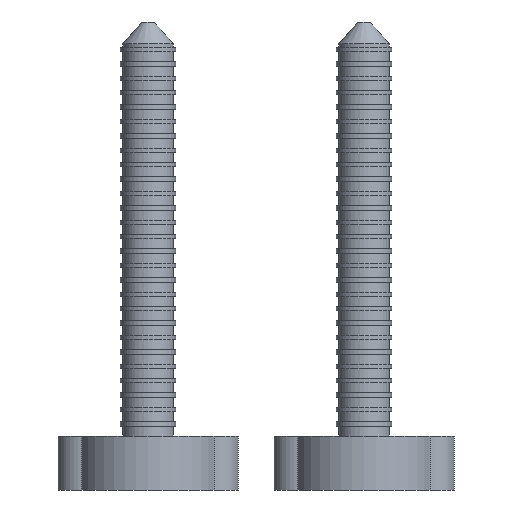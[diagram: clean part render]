
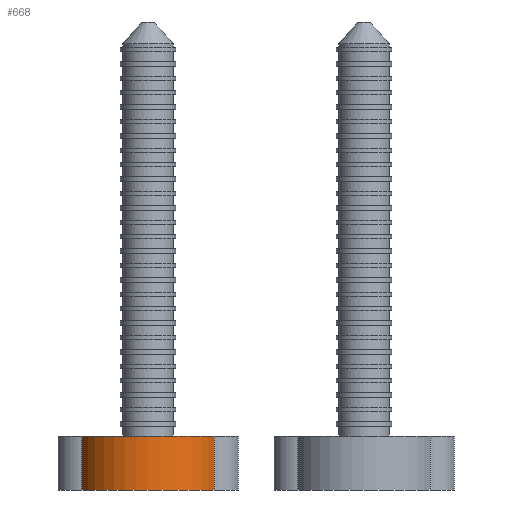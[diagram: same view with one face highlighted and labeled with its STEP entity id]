
A CAD part, front view. The second image highlights one B-rep face of the part: STEP entity #668.
In plain terms, the highlighted cylindrical face has radius 4 mm (diameter 8 mm), a partial arc.
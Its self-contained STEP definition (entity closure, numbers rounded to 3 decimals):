
#54 = VERTEX_POINT('',#55);
#55 = CARTESIAN_POINT('',(3.668,-1.595,0.));
#63 = PLANE('',#64);
#64 = AXIS2_PLACEMENT_3D('',#65,#66,#67);
#65 = CARTESIAN_POINT('',(0.,0.,0.));
#66 = DIRECTION('',(0.,0.,1.));
#67 = DIRECTION('',(1.,0.,-0.));
#79 = CYLINDRICAL_SURFACE('',#80,1.45);
#80 = AXIS2_PLACEMENT_3D('',#81,#82,#83);
#81 = CARTESIAN_POINT('',(3.55,-0.15,0.));
#82 = DIRECTION('',(0.,0.,1.));
#83 = DIRECTION('',(1.,0.,-0.));
#239 = VERTEX_POINT('',#240);
#240 = CARTESIAN_POINT('',(-3.668,-1.595,0.));
#255 = CYLINDRICAL_SURFACE('',#256,1.45);
#256 = AXIS2_PLACEMENT_3D('',#257,#258,#259);
#257 = CARTESIAN_POINT('',(-3.55,-0.15,0.));
#258 = DIRECTION('',(0.,0.,1.));
#259 = DIRECTION('',(-1.,-0.,0.));
#267 = EDGE_CURVE('',#239,#54,#268,.T.);
#268 = SURFACE_CURVE('',#269,(#274,#281),.PCURVE_S1.);
#269 = CIRCLE('',#270,4.);
#270 = AXIS2_PLACEMENT_3D('',#271,#272,#273);
#271 = CARTESIAN_POINT('',(0.,0.,0.));
#272 = DIRECTION('',(0.,0.,1.));
#273 = DIRECTION('',(1.,0.,0.));
#274 = PCURVE('',#63,#275);
#275 = DEFINITIONAL_REPRESENTATION('',(#276),#280);
#276 = CIRCLE('',#277,4.);
#277 = AXIS2_PLACEMENT_2D('',#278,#279);
#278 = CARTESIAN_POINT('',(0.,0.));
#279 = DIRECTION('',(1.,0.));
#280 = ( GEOMETRIC_REPRESENTATION_CONTEXT(2) 
PARAMETRIC_REPRESENTATION_CONTEXT() REPRESENTATION_CONTEXT('2D SPACE',''
  ) );
#281 = PCURVE('',#282,#287);
#282 = CYLINDRICAL_SURFACE('',#283,4.);
#283 = AXIS2_PLACEMENT_3D('',#284,#285,#286);
#284 = CARTESIAN_POINT('',(0.,0.,0.));
#285 = DIRECTION('',(-0.,-0.,-1.));
#286 = DIRECTION('',(1.,0.,0.));
#287 = DEFINITIONAL_REPRESENTATION('',(#288),#292);
#288 = LINE('',#289,#290);
#289 = CARTESIAN_POINT('',(-0.,0.));
#290 = VECTOR('',#291,1.);
#291 = DIRECTION('',(-1.,0.));
#292 = ( GEOMETRIC_REPRESENTATION_CONTEXT(2) 
PARAMETRIC_REPRESENTATION_CONTEXT() REPRESENTATION_CONTEXT('2D SPACE',''
  ) );
#321 = EDGE_CURVE('',#322,#54,#324,.T.);
#322 = VERTEX_POINT('',#323);
#323 = CARTESIAN_POINT('',(3.668,-1.595,3.));
#324 = SURFACE_CURVE('',#325,(#329,#335),.PCURVE_S1.);
#325 = LINE('',#326,#327);
#326 = CARTESIAN_POINT('',(3.668,-1.595,0.));
#327 = VECTOR('',#328,1.);
#328 = DIRECTION('',(-0.,-0.,-1.));
#329 = PCURVE('',#79,#330);
#330 = DEFINITIONAL_REPRESENTATION('',(#331),#334);
#331 = B_SPLINE_CURVE_WITH_KNOTS('',1,(#332,#333),.UNSPECIFIED.,.F.,.F.,
  (2,2),(-3.,0.),.PIECEWISE_BEZIER_KNOTS.);
#332 = CARTESIAN_POINT('',(-1.489,3.));
#333 = CARTESIAN_POINT('',(-1.489,0.));
#334 = ( GEOMETRIC_REPRESENTATION_CONTEXT(2) 
PARAMETRIC_REPRESENTATION_CONTEXT() REPRESENTATION_CONTEXT('2D SPACE',''
  ) );
#335 = PCURVE('',#282,#336);
#336 = DEFINITIONAL_REPRESENTATION('',(#337),#340);
#337 = B_SPLINE_CURVE_WITH_KNOTS('',1,(#338,#339),.UNSPECIFIED.,.F.,.F.,
  (2,2),(-3.,0.),.PIECEWISE_BEZIER_KNOTS.);
#338 = CARTESIAN_POINT('',(-5.873,-3.));
#339 = CARTESIAN_POINT('',(-5.873,0.));
#340 = ( GEOMETRIC_REPRESENTATION_CONTEXT(2) 
PARAMETRIC_REPRESENTATION_CONTEXT() REPRESENTATION_CONTEXT('2D SPACE',''
  ) );
#357 = PLANE('',#358);
#358 = AXIS2_PLACEMENT_3D('',#359,#360,#361);
#359 = CARTESIAN_POINT('',(-5.,-1.6,3.));
#360 = DIRECTION('',(0.,0.,1.));
#361 = DIRECTION('',(1.,0.,0.));
#626 = EDGE_CURVE('',#627,#239,#629,.T.);
#627 = VERTEX_POINT('',#628);
#628 = CARTESIAN_POINT('',(-3.668,-1.595,3.));
#629 = SURFACE_CURVE('',#630,(#634,#640),.PCURVE_S1.);
#630 = LINE('',#631,#632);
#631 = CARTESIAN_POINT('',(-3.668,-1.595,0.));
#632 = VECTOR('',#633,1.);
#633 = DIRECTION('',(-0.,-0.,-1.));
#634 = PCURVE('',#255,#635);
#635 = DEFINITIONAL_REPRESENTATION('',(#636),#639);
#636 = B_SPLINE_CURVE_WITH_KNOTS('',1,(#637,#638),.UNSPECIFIED.,.F.,.F.,
  (2,2),(-3.,0.),.PIECEWISE_BEZIER_KNOTS.);
#637 = CARTESIAN_POINT('',(1.489,3.));
#638 = CARTESIAN_POINT('',(1.489,0.));
#639 = ( GEOMETRIC_REPRESENTATION_CONTEXT(2) 
PARAMETRIC_REPRESENTATION_CONTEXT() REPRESENTATION_CONTEXT('2D SPACE',''
  ) );
#640 = PCURVE('',#282,#641);
#641 = DEFINITIONAL_REPRESENTATION('',(#642),#645);
#642 = B_SPLINE_CURVE_WITH_KNOTS('',1,(#643,#644),.UNSPECIFIED.,.F.,.F.,
  (2,2),(-3.,0.),.PIECEWISE_BEZIER_KNOTS.);
#643 = CARTESIAN_POINT('',(-3.552,-3.));
#644 = CARTESIAN_POINT('',(-3.552,0.));
#645 = ( GEOMETRIC_REPRESENTATION_CONTEXT(2) 
PARAMETRIC_REPRESENTATION_CONTEXT() REPRESENTATION_CONTEXT('2D SPACE',''
  ) );
#668 = ADVANCED_FACE('',(#669),#282,.T.);
#669 = FACE_BOUND('',#670,.F.);
#670 = EDGE_LOOP('',(#671,#672,#673,#674));
#671 = ORIENTED_EDGE('',*,*,#321,.T.);
#672 = ORIENTED_EDGE('',*,*,#267,.F.);
#673 = ORIENTED_EDGE('',*,*,#626,.F.);
#674 = ORIENTED_EDGE('',*,*,#675,.T.);
#675 = EDGE_CURVE('',#627,#322,#676,.T.);
#676 = SURFACE_CURVE('',#677,(#682,#689),.PCURVE_S1.);
#677 = CIRCLE('',#678,4.);
#678 = AXIS2_PLACEMENT_3D('',#679,#680,#681);
#679 = CARTESIAN_POINT('',(0.,0.,3.));
#680 = DIRECTION('',(0.,0.,1.));
#681 = DIRECTION('',(1.,0.,0.));
#682 = PCURVE('',#282,#683);
#683 = DEFINITIONAL_REPRESENTATION('',(#684),#688);
#684 = LINE('',#685,#686);
#685 = CARTESIAN_POINT('',(-0.,-3.));
#686 = VECTOR('',#687,1.);
#687 = DIRECTION('',(-1.,0.));
#688 = ( GEOMETRIC_REPRESENTATION_CONTEXT(2) 
PARAMETRIC_REPRESENTATION_CONTEXT() REPRESENTATION_CONTEXT('2D SPACE',''
  ) );
#689 = PCURVE('',#357,#690);
#690 = DEFINITIONAL_REPRESENTATION('',(#691),#695);
#691 = CIRCLE('',#692,4.);
#692 = AXIS2_PLACEMENT_2D('',#693,#694);
#693 = CARTESIAN_POINT('',(5.,1.6));
#694 = DIRECTION('',(1.,0.));
#695 = ( GEOMETRIC_REPRESENTATION_CONTEXT(2) 
PARAMETRIC_REPRESENTATION_CONTEXT() REPRESENTATION_CONTEXT('2D SPACE',''
  ) );
